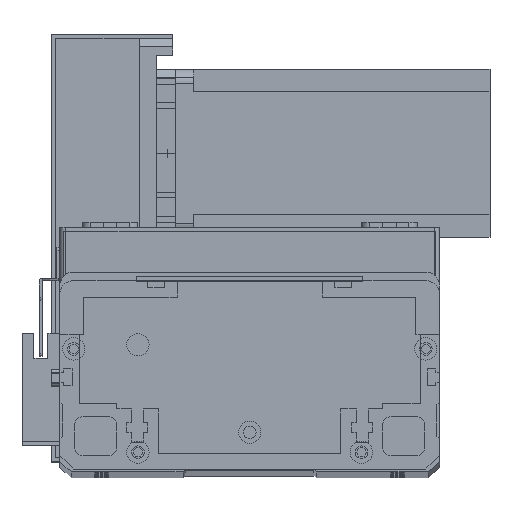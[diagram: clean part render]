
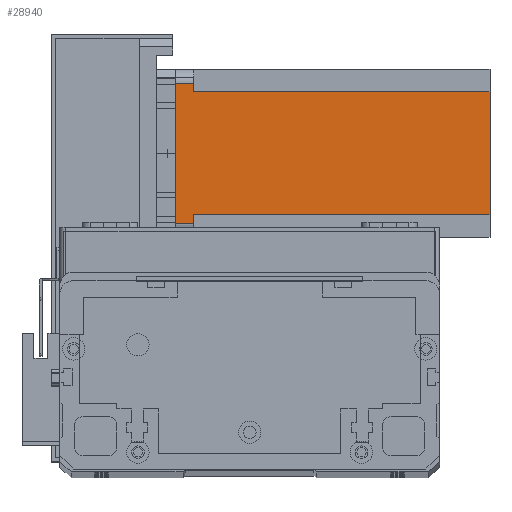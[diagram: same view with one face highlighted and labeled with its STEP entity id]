
A CAD part, top view. The second image highlights one B-rep face of the part: STEP entity #28940.
In plain terms, the highlighted planar face has unit normal (0, 0, 1) as drawn and (0, -1, 0) by its records, which use the part's own axes.
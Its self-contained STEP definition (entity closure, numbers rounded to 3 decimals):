
#266 = LINE ( 'NONE', #21487, #17030 ) ;
#2212 = PLANE ( 'NONE',  #14467 ) ;
#2235 = CARTESIAN_POINT ( 'NONE',  ( 52., 0., -112.5 ) ) ;
#2386 = ORIENTED_EDGE ( 'NONE', *, *, #14079, .F. ) ;
#2714 = CARTESIAN_POINT ( 'NONE',  ( 8., 0., -112.5 ) ) ;
#2845 = DIRECTION ( 'NONE',  ( 0., 0., 1. ) ) ;
#3707 = VECTOR ( 'NONE', #10864, 1000. ) ;
#4509 = DIRECTION ( 'NONE',  ( 0., 0., -1. ) ) ;
#5993 = ORIENTED_EDGE ( 'NONE', *, *, #13784, .T. ) ;
#6139 = EDGE_CURVE ( 'NONE', #7614, #24539, #12516, .T. ) ;
#6259 = CARTESIAN_POINT ( 'NONE',  ( 52., 0., -6.5 ) ) ;
#6992 = CARTESIAN_POINT ( 'NONE',  ( 8., 0., -112.5 ) ) ;
#7614 = VERTEX_POINT ( 'NONE', #20423 ) ;
#7664 = EDGE_CURVE ( 'NONE', #11363, #9263, #10327, .T. ) ;
#8389 = EDGE_CURVE ( 'NONE', #19912, #19582, #23348, .T. ) ;
#8719 = ORIENTED_EDGE ( 'NONE', *, *, #7664, .T. ) ;
#9263 = VERTEX_POINT ( 'NONE', #19349 ) ;
#9299 = LINE ( 'NONE', #2235, #14603 ) ;
#9764 = CARTESIAN_POINT ( 'NONE',  ( 52., 0., -112.5 ) ) ;
#10327 = LINE ( 'NONE', #18764, #23047 ) ;
#10588 = LINE ( 'NONE', #22695, #28551 ) ;
#10864 = DIRECTION ( 'NONE',  ( 1., 0., 0. ) ) ;
#10902 = FACE_OUTER_BOUND ( 'NONE', #25501, .T. ) ;
#11227 = ORIENTED_EDGE ( 'NONE', *, *, #28782, .F. ) ;
#11363 = VERTEX_POINT ( 'NONE', #29087 ) ;
#11416 = DIRECTION ( 'NONE',  ( 1., 0., 0. ) ) ;
#11417 = DIRECTION ( 'NONE',  ( 0., -1., 0. ) ) ;
#12516 = LINE ( 'NONE', #26110, #23850 ) ;
#13474 = ORIENTED_EDGE ( 'NONE', *, *, #6139, .T. ) ;
#13784 = EDGE_CURVE ( 'NONE', #29406, #11363, #22432, .T. ) ;
#14079 = EDGE_CURVE ( 'NONE', #29406, #25518, #9299, .T. ) ;
#14467 = AXIS2_PLACEMENT_3D ( 'NONE', #24950, #11417, #27193 ) ;
#14603 = VECTOR ( 'NONE', #4509, 1000. ) ;
#15624 = CARTESIAN_POINT ( 'NONE',  ( 0., 0., 0. ) ) ;
#15996 = ORIENTED_EDGE ( 'NONE', *, *, #18910, .F. ) ;
#16504 = EDGE_CURVE ( 'NONE', #19912, #25518, #10588, .T. ) ;
#16650 = DIRECTION ( 'NONE',  ( 1., 0., 0. ) ) ;
#16982 = DIRECTION ( 'NONE',  ( -1., 0., 0. ) ) ;
#17030 = VECTOR ( 'NONE', #16982, 1000. ) ;
#17322 = VECTOR ( 'NONE', #2845, 1000. ) ;
#18745 = ORIENTED_EDGE ( 'NONE', *, *, #8389, .F. ) ;
#18759 = DIRECTION ( 'NONE',  ( 0., 0., 1. ) ) ;
#18764 = CARTESIAN_POINT ( 'NONE',  ( 55., 0., -112.5 ) ) ;
#18910 = EDGE_CURVE ( 'NONE', #19582, #24539, #266, .T. ) ;
#19179 = CARTESIAN_POINT ( 'NONE',  ( 5., 0., -6.5 ) ) ;
#19273 = CARTESIAN_POINT ( 'NONE',  ( 8., 0., -6.5 ) ) ;
#19349 = CARTESIAN_POINT ( 'NONE',  ( 55., 0., 0. ) ) ;
#19582 = VERTEX_POINT ( 'NONE', #19273 ) ;
#19912 = VERTEX_POINT ( 'NONE', #6992 ) ;
#20423 = CARTESIAN_POINT ( 'NONE',  ( 5., 0., 0. ) ) ;
#21487 = CARTESIAN_POINT ( 'NONE',  ( 8., 0., -6.5 ) ) ;
#22144 = ORIENTED_EDGE ( 'NONE', *, *, #16504, .T. ) ;
#22432 = LINE ( 'NONE', #27907, #27658 ) ;
#22507 = DIRECTION ( 'NONE',  ( 0., 0., -1. ) ) ;
#22695 = CARTESIAN_POINT ( 'NONE',  ( 0., 0., -112.5 ) ) ;
#23047 = VECTOR ( 'NONE', #18759, 1000. ) ;
#23348 = LINE ( 'NONE', #2714, #17322 ) ;
#23850 = VECTOR ( 'NONE', #22507, 1000. ) ;
#24539 = VERTEX_POINT ( 'NONE', #19179 ) ;
#24950 = CARTESIAN_POINT ( 'NONE',  ( 0., 0., -112.5 ) ) ;
#25501 = EDGE_LOOP ( 'NONE', ( #5993, #8719, #11227, #13474, #15996, #18745, #22144, #2386 ) ) ;
#25518 = VERTEX_POINT ( 'NONE', #9764 ) ;
#26110 = CARTESIAN_POINT ( 'NONE',  ( 5., 0., -112.5 ) ) ;
#27125 = LINE ( 'NONE', #15624, #3707 ) ;
#27193 = DIRECTION ( 'NONE',  ( 0., 0., -1. ) ) ;
#27658 = VECTOR ( 'NONE', #16650, 1000. ) ;
#27907 = CARTESIAN_POINT ( 'NONE',  ( 52., 0., -6.5 ) ) ;
#28551 = VECTOR ( 'NONE', #11416, 1000. ) ;
#28782 = EDGE_CURVE ( 'NONE', #7614, #9263, #27125, .T. ) ;
#28940 = ADVANCED_FACE ( 'NONE', ( #10902 ), #2212, .T. ) ;
#29087 = CARTESIAN_POINT ( 'NONE',  ( 55., 0., -6.5 ) ) ;
#29406 = VERTEX_POINT ( 'NONE', #6259 ) ;
